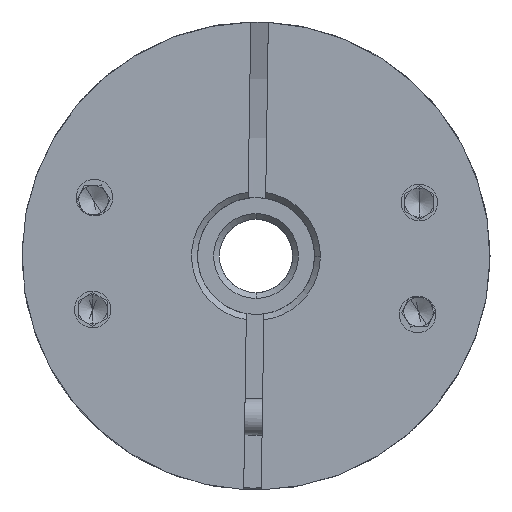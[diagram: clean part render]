
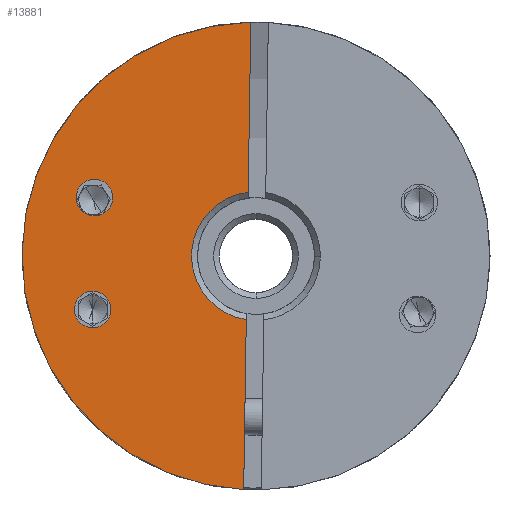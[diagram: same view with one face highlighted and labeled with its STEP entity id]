
A CAD part, front view. The second image highlights one B-rep face of the part: STEP entity #13881.
In plain terms, the highlighted planar face has unit normal (0, -1, 0).
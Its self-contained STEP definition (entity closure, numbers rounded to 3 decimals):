
#357 = CARTESIAN_POINT ( 'NONE',  ( -70.345, -19.411, -3.656 ) ) ;
#921 = DIRECTION ( 'NONE',  ( 0., -1., 0. ) ) ;
#2171 = AXIS2_PLACEMENT_3D ( 'NONE', #19212, #21106, #9966 ) ;
#2293 = CARTESIAN_POINT ( 'NONE',  ( -68.979, -19.411, 3.975 ) ) ;
#2353 = VERTEX_POINT ( 'NONE', #22456 ) ;
#3072 = DIRECTION ( 'NONE',  ( 1., 0., -0.015 ) ) ;
#3762 = EDGE_CURVE ( 'NONE', #21791, #13862, #18174, .T. ) ;
#3900 = DIRECTION ( 'NONE',  ( -0.015, 0., -1. ) ) ;
#4566 = DIRECTION ( 'NONE',  ( -0.015, 0., -1. ) ) ;
#4613 = DIRECTION ( 'NONE',  ( 1., 0., -0.015 ) ) ;
#5098 = AXIS2_PLACEMENT_3D ( 'NONE', #8989, #16377, #8920 ) ;
#5660 = EDGE_LOOP ( 'NONE', ( #10255, #14519 ) ) ;
#6340 = AXIS2_PLACEMENT_3D ( 'NONE', #12065, #17451, #4613 ) ;
#6380 = CARTESIAN_POINT ( 'NONE',  ( -59.178, -19.411, 0. ) ) ;
#6611 = DIRECTION ( 'NONE',  ( 1., 0., -0.015 ) ) ;
#8008 = AXIS2_PLACEMENT_3D ( 'NONE', #21797, #17940, #3072 ) ;
#8068 = VERTEX_POINT ( 'NONE', #12009 ) ;
#8525 = DIRECTION ( 'NONE',  ( 0., -1., 0. ) ) ;
#8813 = EDGE_CURVE ( 'NONE', #21728, #16040, #14554, .T. ) ;
#8920 = DIRECTION ( 'NONE',  ( 1., 0., -0.015 ) ) ;
#8989 = CARTESIAN_POINT ( 'NONE',  ( -70.229, -19.411, 3.994 ) ) ;
#9226 = CARTESIAN_POINT ( 'NONE',  ( -60.021, -19.411, -15.978 ) ) ;
#9641 = EDGE_CURVE ( 'NONE', #11179, #20576, #20886, .T. ) ;
#9966 = DIRECTION ( 'NONE',  ( 1., 0., -0.015 ) ) ;
#10100 = DIRECTION ( 'NONE',  ( 0., -1., 0. ) ) ;
#10255 = ORIENTED_EDGE ( 'NONE', *, *, #15910, .T. ) ;
#10459 = CARTESIAN_POINT ( 'NONE',  ( -59.712, -19.411, 4.368 ) ) ;
#10546 = PLANE ( 'NONE',  #23548 ) ;
#10581 = EDGE_CURVE ( 'NONE', #2353, #17908, #11548, .T. ) ;
#11179 = VERTEX_POINT ( 'NONE', #22519 ) ;
#11418 = AXIS2_PLACEMENT_3D ( 'NONE', #13682, #921, #6611 ) ;
#11548 = CIRCLE ( 'NONE', #19028, 16. ) ;
#11678 = EDGE_LOOP ( 'NONE', ( #23010, #14728 ) ) ;
#12009 = CARTESIAN_POINT ( 'NONE',  ( -59.535, -19.411, 15.996 ) ) ;
#12065 = CARTESIAN_POINT ( 'NONE',  ( -59.178, -19.411, 0. ) ) ;
#12357 = AXIS2_PLACEMENT_3D ( 'NONE', #357, #13447, #15355 ) ;
#12838 = ORIENTED_EDGE ( 'NONE', *, *, #15923, .T. ) ;
#13112 = EDGE_CURVE ( 'NONE', #20576, #11179, #19054, .T. ) ;
#13327 = CARTESIAN_POINT ( 'NONE',  ( -69.095, -19.411, -3.675 ) ) ;
#13447 = DIRECTION ( 'NONE',  ( 0., 1., 0. ) ) ;
#13682 = CARTESIAN_POINT ( 'NONE',  ( -59.178, -19.411, 0. ) ) ;
#13862 = VERTEX_POINT ( 'NONE', #10459 ) ;
#13881 = ADVANCED_FACE ( 'NONE', ( #19919, #14696, #15837 ), #10546, .T. ) ;
#14243 = CARTESIAN_POINT ( 'NONE',  ( -71.595, -19.411, -3.637 ) ) ;
#14359 = ORIENTED_EDGE ( 'NONE', *, *, #10581, .T. ) ;
#14418 = VECTOR ( 'NONE', #4566, 1000. ) ;
#14519 = ORIENTED_EDGE ( 'NONE', *, *, #8813, .T. ) ;
#14554 = CIRCLE ( 'NONE', #2171, 1.25 ) ;
#14696 = FACE_BOUND ( 'NONE', #11678, .T. ) ;
#14728 = ORIENTED_EDGE ( 'NONE', *, *, #13112, .T. ) ;
#15200 = CIRCLE ( 'NONE', #12357, 1.25 ) ;
#15355 = DIRECTION ( 'NONE',  ( 1., 0., -0.015 ) ) ;
#15837 = FACE_BOUND ( 'NONE', #5660, .T. ) ;
#15854 = ORIENTED_EDGE ( 'NONE', *, *, #3762, .T. ) ;
#15910 = EDGE_CURVE ( 'NONE', #16040, #21728, #15200, .T. ) ;
#15923 = EDGE_CURVE ( 'NONE', #8068, #2353, #21019, .T. ) ;
#16040 = VERTEX_POINT ( 'NONE', #14243 ) ;
#16377 = DIRECTION ( 'NONE',  ( 0., 1., 0. ) ) ;
#17451 = DIRECTION ( 'NONE',  ( 0., 1., 0. ) ) ;
#17461 = ORIENTED_EDGE ( 'NONE', *, *, #18148, .F. ) ;
#17818 = CARTESIAN_POINT ( 'NONE',  ( -59.178, -19.411, 0. ) ) ;
#17831 = EDGE_LOOP ( 'NONE', ( #21604, #15854, #17461, #12838, #14359 ) ) ;
#17908 = VERTEX_POINT ( 'NONE', #9226 ) ;
#17940 = DIRECTION ( 'NONE',  ( 0., 1., 0. ) ) ;
#18143 = LINE ( 'NONE', #21342, #14418 ) ;
#18148 = EDGE_CURVE ( 'NONE', #8068, #13862, #18143, .T. ) ;
#18174 = CIRCLE ( 'NONE', #6340, 4.4 ) ;
#18385 = EDGE_CURVE ( 'NONE', #21791, #17908, #19013, .T. ) ;
#19013 = LINE ( 'NONE', #24052, #23439 ) ;
#19028 = AXIS2_PLACEMENT_3D ( 'NONE', #6380, #10100, #21313 ) ;
#19054 = CIRCLE ( 'NONE', #5098, 1.25 ) ;
#19212 = CARTESIAN_POINT ( 'NONE',  ( -70.345, -19.411, -3.656 ) ) ;
#19919 = FACE_OUTER_BOUND ( 'NONE', #17831, .T. ) ;
#20576 = VERTEX_POINT ( 'NONE', #2293 ) ;
#20886 = CIRCLE ( 'NONE', #8008, 1.25 ) ;
#21019 = CIRCLE ( 'NONE', #11418, 16. ) ;
#21106 = DIRECTION ( 'NONE',  ( 0., 1., 0. ) ) ;
#21313 = DIRECTION ( 'NONE',  ( 1., 0., -0.015 ) ) ;
#21342 = CARTESIAN_POINT ( 'NONE',  ( -59.687, -19.411, 6.008 ) ) ;
#21604 = ORIENTED_EDGE ( 'NONE', *, *, #18385, .F. ) ;
#21728 = VERTEX_POINT ( 'NONE', #13327 ) ;
#21791 = VERTEX_POINT ( 'NONE', #23144 ) ;
#21797 = CARTESIAN_POINT ( 'NONE',  ( -70.229, -19.411, 3.994 ) ) ;
#22456 = CARTESIAN_POINT ( 'NONE',  ( -75.176, -19.411, 0.243 ) ) ;
#22519 = CARTESIAN_POINT ( 'NONE',  ( -71.479, -19.411, 4.013 ) ) ;
#23010 = ORIENTED_EDGE ( 'NONE', *, *, #9641, .T. ) ;
#23144 = CARTESIAN_POINT ( 'NONE',  ( -59.844, -19.411, -4.349 ) ) ;
#23321 = DIRECTION ( 'NONE',  ( 1., 0., -0.015 ) ) ;
#23439 = VECTOR ( 'NONE', #3900, 1000. ) ;
#23548 = AXIS2_PLACEMENT_3D ( 'NONE', #17818, #8525, #23321 ) ;
#24052 = CARTESIAN_POINT ( 'NONE',  ( -59.687, -19.411, 6.008 ) ) ;
